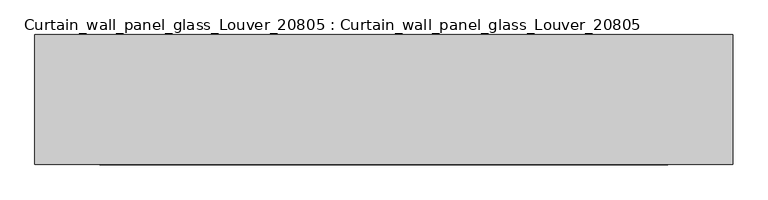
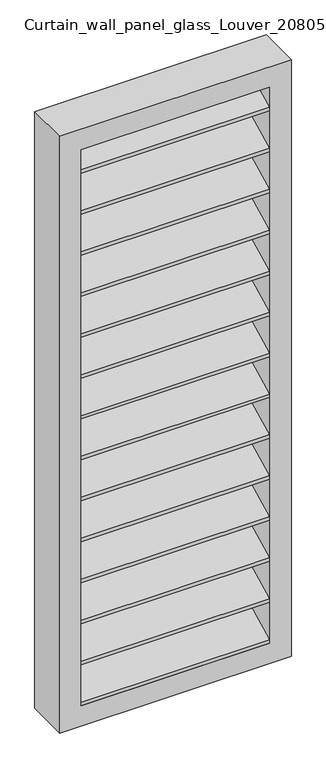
"""IFC4 building model written with IfcOpenShell, lengths in millimetres: plate geometry, Curtain_wall_panel_glass_Louver_20805 : Curtain_wall_panel_glass_Louver_20805."""

from ifc_helpers import new_model, si_unit, frame, origin, place, context, project, spatial, polyline, outline, extrude, source, transform, mapped, element, save


def curtain_wall_panel_glass_louver_20805_curtain_wall_panel_94629aa8(model_context):
    return source(origin(), model_context, "Body", "SweptSolid", [
        extrude(outline(polyline([(200.0, 199.3849981), (0.0, 100.0), (0.0, 116.7499328), (200.0, 216.1349309), (200.0, 199.3849981)])), frame((-437.2499999, 0.0, 0.0), z_axis=(1.0, 0.0, 0.0), x_axis=(0.0, 1.0, 0.0)), (0.0, 0.0, 1.0), 874.4999999),
        extrude(outline(polyline([(200.0, 2808.2500672), (0.0, 2708.8650691), (0.0, 2725.6150019), (200.0, 2825.0), (200.0, 2808.2500672)])), frame((-437.2499999, 0.0, 0.0), z_axis=(1.0, 0.0, 0.0), x_axis=(0.0, 1.0, 0.0)), (0.0, 0.0, 1.0), 874.4999999),
        extrude(outline(polyline([(200.0, 400.0669265), (0.0, 300.6819284), (0.0, 317.4318612), (200.0, 416.8168593), (200.0, 400.0669265)])), frame((-437.2499999, 0.0, 0.0), z_axis=(1.0, 0.0, 0.0), x_axis=(0.0, 1.0, 0.0)), (0.0, 0.0, 1.0), 874.4999999),
        extrude(outline(polyline([(200.0, 600.7488549), (0.0, 501.3638568), (0.0, 518.1137896), (200.0, 617.4987877), (200.0, 600.7488549)])), frame((-437.2499999, 0.0, 0.0), z_axis=(1.0, 0.0, 0.0), x_axis=(0.0, 1.0, 0.0)), (0.0, 0.0, 1.0), 874.4999999),
        extrude(outline(polyline([(200.0, 801.4307833), (0.0, 702.0457852), (0.0, 718.795718), (200.0, 818.1807161), (200.0, 801.4307833)])), frame((-437.2499999, 0.0, 0.0), z_axis=(1.0, 0.0, 0.0), x_axis=(0.0, 1.0, 0.0)), (0.0, 0.0, 1.0), 874.4999999),
        extrude(outline(polyline([(200.0, 1002.1127117), (0.0, 902.7277136), (0.0, 919.4776464), (200.0, 1018.8626445), (200.0, 1002.1127117)])), frame((-437.2499999, 0.0, 0.0), z_axis=(1.0, 0.0, 0.0), x_axis=(0.0, 1.0, 0.0)), (0.0, 0.0, 1.0), 874.4999999),
        extrude(outline(polyline([(200.0, 1202.79464), (0.0, 1103.4096419), (0.0, 1120.1595748), (200.0, 1219.5445729), (200.0, 1202.79464)])), frame((-437.2499999, 0.0, 0.0), z_axis=(1.0, 0.0, 0.0), x_axis=(0.0, 1.0, 0.0)), (0.0, 0.0, 1.0), 874.4999999),
        extrude(outline(polyline([(200.0, 1403.4765684), (0.0, 1304.0915703), (0.0, 1320.8415032), (200.0, 1420.2265013), (200.0, 1403.4765684)])), frame((-437.2499999, 0.0, 0.0), z_axis=(1.0, 0.0, 0.0), x_axis=(0.0, 1.0, 0.0)), (0.0, 0.0, 1.0), 874.4999999),
        extrude(outline(polyline([(200.0, 1604.1584968), (0.0, 1504.7734987), (0.0, 1521.5234316), (200.0, 1620.9084297), (200.0, 1604.1584968)])), frame((-437.2499999, 0.0, 0.0), z_axis=(1.0, 0.0, 0.0), x_axis=(0.0, 1.0, 0.0)), (0.0, 0.0, 1.0), 874.4999999),
        extrude(outline(polyline([(200.0, 1804.8404252), (0.0, 1705.4554271), (0.0, 1722.20536), (200.0, 1821.5903581), (200.0, 1804.8404252)])), frame((-437.2499999, 0.0, 0.0), z_axis=(1.0, 0.0, 0.0), x_axis=(0.0, 1.0, 0.0)), (0.0, 0.0, 1.0), 874.4999999),
        extrude(outline(polyline([(200.0, 2005.5223536), (0.0, 1906.1373555), (0.0, 1922.8872883), (200.0, 2022.2722864), (200.0, 2005.5223536)])), frame((-437.2499999, 0.0, 0.0), z_axis=(1.0, 0.0, 0.0), x_axis=(0.0, 1.0, 0.0)), (0.0, 0.0, 1.0), 874.4999999),
        extrude(outline(polyline([(200.0, 2206.204282), (0.0, 2106.8192839), (0.0, 2123.5692167), (200.0, 2222.9542148), (200.0, 2206.204282)])), frame((-437.2499999, 0.0, 0.0), z_axis=(1.0, 0.0, 0.0), x_axis=(0.0, 1.0, 0.0)), (0.0, 0.0, 1.0), 874.4999999),
        extrude(outline(polyline([(200.0, 2406.8862104), (0.0, 2307.5012123), (0.0, 2324.2511451), (200.0, 2423.6361432), (200.0, 2406.8862104)])), frame((-437.2499999, 0.0, 0.0), z_axis=(1.0, 0.0, 0.0), x_axis=(0.0, 1.0, 0.0)), (0.0, 0.0, 1.0), 874.4999999),
        extrude(outline(polyline([(200.0, 2607.5681388), (0.0, 2508.1831407), (0.0, 2524.9330735), (200.0, 2624.3180716), (200.0, 2607.5681388)])), frame((-437.2499999, 0.0, 0.0), z_axis=(1.0, 0.0, 0.0), x_axis=(0.0, 1.0, 0.0)), (0.0, 0.0, 1.0), 874.4999999),
        extrude(outline(polyline([(2925.0, -537.2499999), (0.0, -537.2499999), (0.0, 537.2499999), (2925.0, 537.2499999), (2925.0, -537.2499999)]), holes=[polyline([(2825.0, -437.2499999), (2825.0, 437.2499999), (100.0, 437.2499999), (100.0, -437.2499999), (2825.0, -437.2499999)])]), frame((0.0, 0.0, 0.0), z_axis=(0.0, 1.0, 0.0), x_axis=(0.0, 0.0, 1.0)), (0.0, 0.0, 1.0), 200.0),
    ])


if __name__ == "__main__":
    model = new_model("IFC4")
    model_context = context("Model", 3, world=origin())
    ifc_project = project(units=[si_unit("LENGTHUNIT", "METRE", prefix="MILLI")], contexts=[model_context])
    site = spatial("IfcSite", under=ifc_project)
    building = spatial("IfcBuilding", under=site)
    placement = place(None, origin())
    curtain_wall_panel_glass_louver_20805_curtain_wall_panel_shape = curtain_wall_panel_glass_louver_20805_curtain_wall_panel_94629aa8(model_context)
    element("IfcPlate", 1, ObjectType="Curtain_wall_panel_glass_Louver_20805 : Curtain_wall_panel_glass_Louver_20805", at=placement, inside=building, context=model_context, shape_type="MappedRepresentation", body=[
        mapped(curtain_wall_panel_glass_louver_20805_curtain_wall_panel_shape, transform((0.0, 0.0, 0.0), x_axis=(1.0, 0.0, 0.0), y_axis=(0.0, 1.0, 0.0), z_axis=(0.0, 0.0, 1.0))),
    ])
    save(model, "model.ifc")
